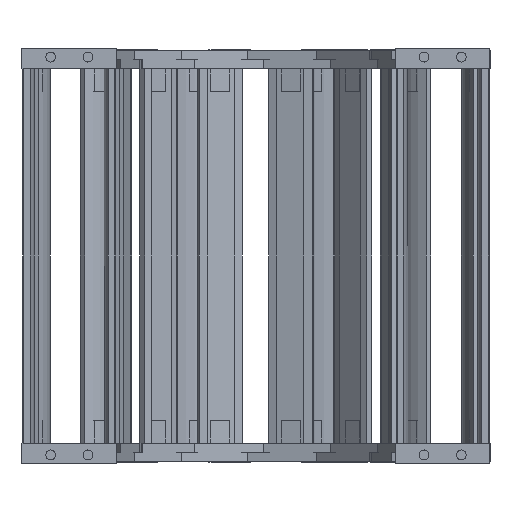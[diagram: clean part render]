
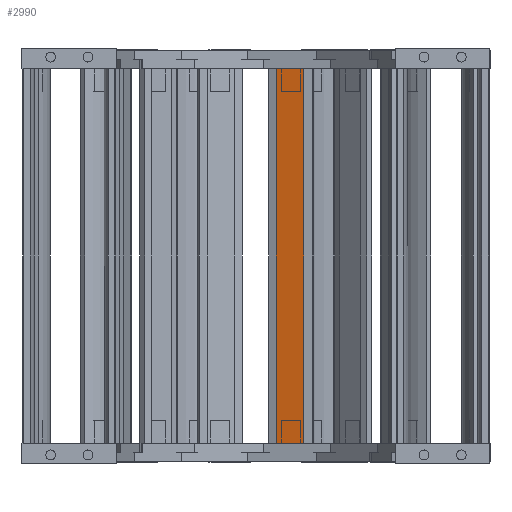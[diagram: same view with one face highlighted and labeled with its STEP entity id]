
A CAD part, left-side view. The second image highlights one B-rep face of the part: STEP entity #2990.
In plain terms, the highlighted planar face has unit normal (-0.967, 0.255, 0) as drawn and (0, -1, 0) by its records, which use the part's own axes.
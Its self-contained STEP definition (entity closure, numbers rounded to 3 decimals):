
#2823=DIRECTION('',(0.,0.,-1.));
#2824=VECTOR('',#2823,300.6);
#2825=CARTESIAN_POINT('',(-11.5,-72.,37.5));
#2826=LINE('',#2825,#2824);
#2852=DIRECTION('',(1.,0.,0.));
#2853=VECTOR('',#2852,23.);
#2854=CARTESIAN_POINT('',(-11.5,-72.,37.5));
#2855=LINE('',#2854,#2853);
#2909=DIRECTION('',(-1.,0.,0.));
#2910=VECTOR('',#2909,23.);
#2911=CARTESIAN_POINT('',(11.5,-72.,-263.1));
#2912=LINE('',#2911,#2910);
#2937=DIRECTION('',(0.,0.,-1.));
#2938=VECTOR('',#2937,300.6);
#2939=CARTESIAN_POINT('',(11.5,-72.,37.5));
#2940=LINE('',#2939,#2938);
#2957=CARTESIAN_POINT('',(11.5,-72.,-263.1));
#2958=VERTEX_POINT('',#2957);
#2959=CARTESIAN_POINT('',(-11.5,-72.,-263.1));
#2960=VERTEX_POINT('',#2959);
#2969=CARTESIAN_POINT('',(11.5,-72.,37.5));
#2970=VERTEX_POINT('',#2969);
#2973=CARTESIAN_POINT('',(-11.5,-72.,37.5));
#2974=VERTEX_POINT('',#2973);
#2975=CARTESIAN_POINT('',(15.5,-72.,-263.1));
#2976=DIRECTION('',(0.,1.,0.));
#2977=DIRECTION('',(-1.,0.,0.));
#2978=AXIS2_PLACEMENT_3D('',#2975,#2976,#2977);
#2979=PLANE('',#2978);
#2981=ORIENTED_EDGE('',*,*,#2980,.F.);
#2983=ORIENTED_EDGE('',*,*,#2982,.T.);
#2985=ORIENTED_EDGE('',*,*,#2984,.T.);
#2987=ORIENTED_EDGE('',*,*,#2986,.T.);
#2988=EDGE_LOOP('',(#2981,#2983,#2985,#2987));
#2989=FACE_OUTER_BOUND('',#2988,.F.);
#2990=ADVANCED_FACE('',(#2989),#2979,.F.);
#2980=EDGE_CURVE('',#2974,#2960,#2826,.T.);
#2982=EDGE_CURVE('',#2974,#2970,#2855,.T.);
#2984=EDGE_CURVE('',#2970,#2958,#2940,.T.);
#2986=EDGE_CURVE('',#2958,#2960,#2912,.T.);
